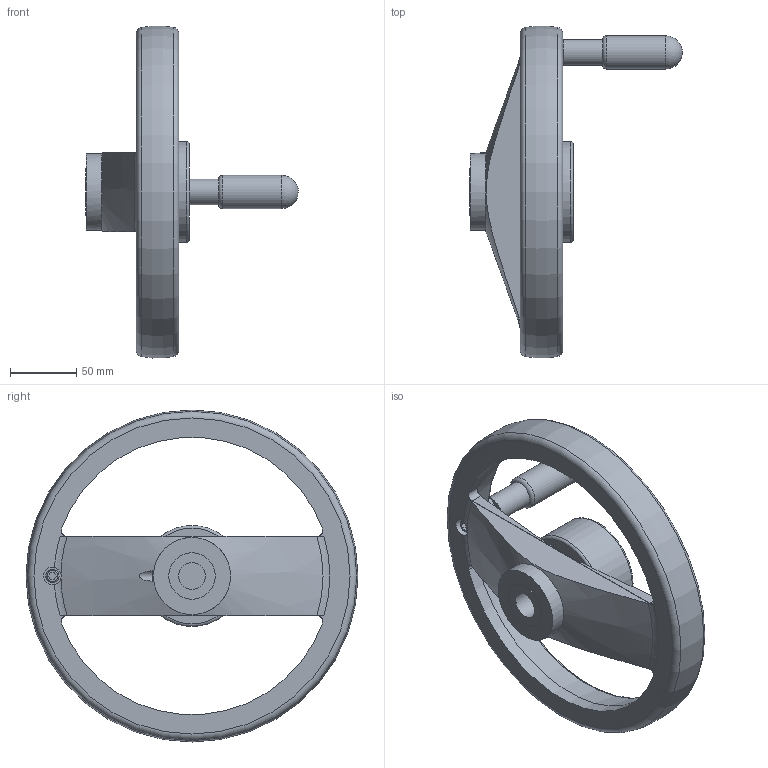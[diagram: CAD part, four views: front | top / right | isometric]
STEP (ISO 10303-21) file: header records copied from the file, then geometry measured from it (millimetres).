
FILE_DESCRIPTION( ( 'STEP AP203' ), '1' );
FILE_NAME( 'C:/Temp/Ganter_Step_05_03_2020/data/1_4/gn_522_8/gn_522_8_b/gn_522_8_b_d/Spoked handwheel GN 522.8-250-B20-D.stp', '2020-03-05T10:53:31', ( 'License CC BY-ND 4.0' ), ( 'CADENAS' ), ' ', 'PARTsolutions', ' ' );
FILE_SCHEMA( ( 'CONFIG_CONTROL_DESIGN' ) );
Length unit declared in the file: millimetre
Products named in the file (1): _Spoked handwheel GN 522.8-250-B20-D
Bounding box: 160 x 249.75 x 249.75 mm (x, y, z)
Volume: 780729.7 mm3; surface area: 136396.9 mm2
Topology: 1 solids, 1 shells, 85 faces, 200 edges, 130 vertices
Faces by surface type: plane 37, cylinder 30, torus 10, cone 7, sphere 1
Full cylindrical faces by diameter (mm): 6 x4, 10 x1, 13.333 x1, 14.625 x1, 19.5 x1, 20 x1, 25 x1, 35 x1, 58 x1, 67 x1, 68.8 x1, 76 x1
Entity records: 2699 total; most frequent: CARTESIAN_POINT 865, DIRECTION 372, ORIENTED_EDGE 324, EDGE_CURVE 162, AXIS2_PLACEMENT_3D 160, EDGE_LOOP 130, VERTEX_POINT 120, FACE_OUTER_BOUND 106
